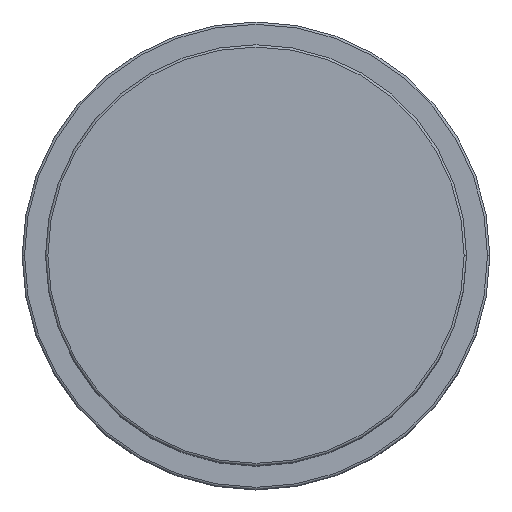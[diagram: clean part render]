
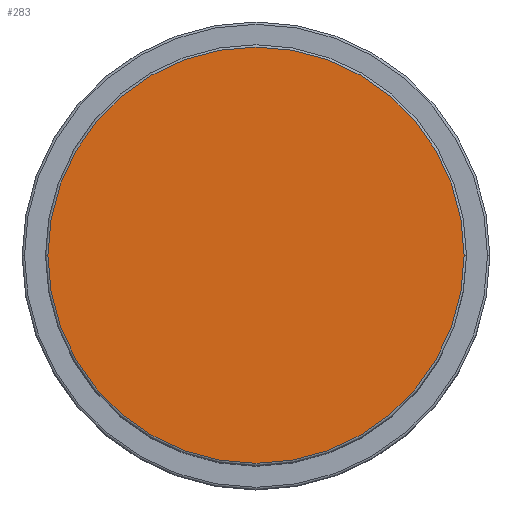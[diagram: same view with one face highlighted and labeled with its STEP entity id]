
A CAD part, top view. The second image highlights one B-rep face of the part: STEP entity #283.
In plain terms, the highlighted planar face has unit normal (0, 0, 1).
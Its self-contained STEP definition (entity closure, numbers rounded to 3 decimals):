
#18 = CARTESIAN_POINT ( 'NONE',  ( 0., 0., 97. ) ) ;
#29 = FACE_OUTER_BOUND ( 'NONE', #684, .T. ) ;
#77 = VERTEX_POINT ( 'NONE', #645 ) ;
#197 = DIRECTION ( 'NONE',  ( 0., 0., 1. ) ) ;
#210 = DIRECTION ( 'NONE',  ( 1., 0., 0. ) ) ;
#262 = DIRECTION ( 'NONE',  ( 0., 0., 1. ) ) ;
#283 = ADVANCED_FACE ( 'NONE', ( #29 ), #466, .T. ) ;
#288 = CIRCLE ( 'NONE', #661, 44.5 ) ;
#430 = VERTEX_POINT ( 'NONE', #739 ) ;
#466 = PLANE ( 'NONE',  #700 ) ;
#524 = DIRECTION ( 'NONE',  ( 1., 0., 0. ) ) ;
#601 = EDGE_CURVE ( 'NONE', #77, #430, #288, .T. ) ;
#645 = CARTESIAN_POINT ( 'NONE',  ( -44.5, 0., 97. ) ) ;
#661 = AXIS2_PLACEMENT_3D ( 'NONE', #18, #262, #524 ) ;
#684 = EDGE_LOOP ( 'NONE', ( #1051, #1383 ) ) ;
#700 = AXIS2_PLACEMENT_3D ( 'NONE', #1598, #197, #210 ) ;
#739 = CARTESIAN_POINT ( 'NONE',  ( 44.5, 0., 97. ) ) ;
#791 = DIRECTION ( 'NONE',  ( 1., 0., 0. ) ) ;
#821 = DIRECTION ( 'NONE',  ( 0., 0., 1. ) ) ;
#901 = CARTESIAN_POINT ( 'NONE',  ( 0., 0., 97. ) ) ;
#1051 = ORIENTED_EDGE ( 'NONE', *, *, #1173, .T. ) ;
#1148 = CIRCLE ( 'NONE', #1335, 44.5 ) ;
#1173 = EDGE_CURVE ( 'NONE', #430, #77, #1148, .T. ) ;
#1335 = AXIS2_PLACEMENT_3D ( 'NONE', #901, #821, #791 ) ;
#1383 = ORIENTED_EDGE ( 'NONE', *, *, #601, .T. ) ;
#1598 = CARTESIAN_POINT ( 'NONE',  ( 0., 0., 97. ) ) ;
